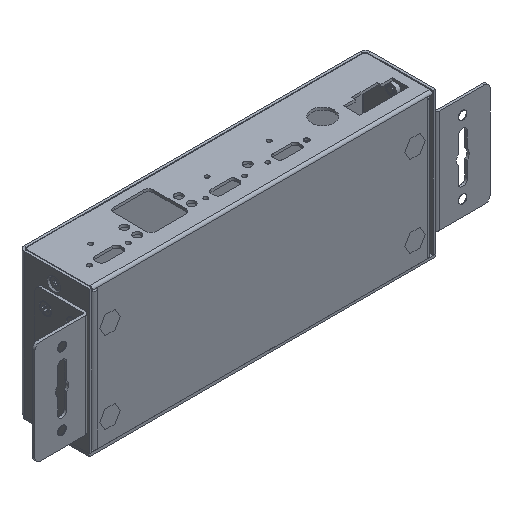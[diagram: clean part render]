
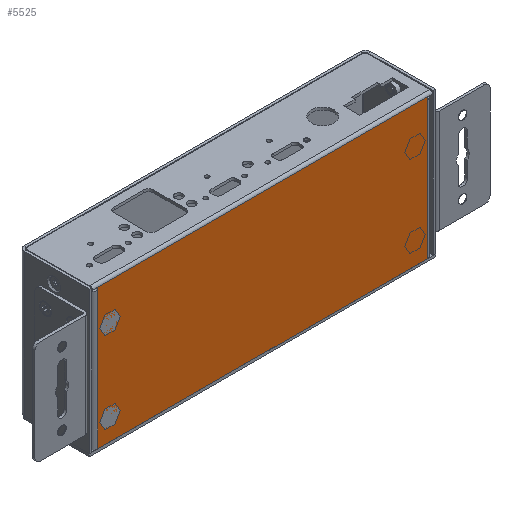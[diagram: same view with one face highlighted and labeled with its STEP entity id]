
A CAD part, isometric view. The second image highlights one B-rep face of the part: STEP entity #5525.
In plain terms, the highlighted planar face has unit normal (0, -1, 0).
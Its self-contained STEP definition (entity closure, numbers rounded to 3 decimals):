
#501=CIRCLE('',#5976,0.5);
#502=CIRCLE('',#5977,0.5);
#971=FACE_OUTER_BOUND('',#1304,.T.);
#1304=EDGE_LOOP('',(#4100,#4101,#4102,#4103,#4104,#4105));
#1709=LINE('',#8921,#2155);
#1710=LINE('',#8925,#2156);
#1711=LINE('',#8929,#2157);
#1712=LINE('',#8930,#2158);
#2155=VECTOR('',#6795,53.7);
#2156=VECTOR('',#6798,128.5);
#2157=VECTOR('',#6801,53.7);
#2158=VECTOR('',#6802,127.5);
#2610=VERTEX_POINT('',#8919);
#2611=VERTEX_POINT('',#8920);
#2612=VERTEX_POINT('',#8922);
#2613=VERTEX_POINT('',#8924);
#2614=VERTEX_POINT('',#8926);
#2615=VERTEX_POINT('',#8928);
#3171=EDGE_CURVE('',#2610,#2611,#1709,.T.);
#3172=EDGE_CURVE('',#2612,#2611,#501,.T.);
#3173=EDGE_CURVE('',#2613,#2612,#1710,.T.);
#3174=EDGE_CURVE('',#2613,#2614,#502,.T.);
#3175=EDGE_CURVE('',#2614,#2615,#1711,.T.);
#3176=EDGE_CURVE('',#2610,#2615,#1712,.T.);
#4100=ORIENTED_EDGE('',*,*,#3171,.T.);
#4101=ORIENTED_EDGE('',*,*,#3172,.F.);
#4102=ORIENTED_EDGE('',*,*,#3173,.F.);
#4103=ORIENTED_EDGE('',*,*,#3174,.T.);
#4104=ORIENTED_EDGE('',*,*,#3175,.T.);
#4105=ORIENTED_EDGE('',*,*,#3176,.F.);
#5344=PLANE('',#5975);
#5525=ADVANCED_FACE('',(#971),#5344,.F.);
#5975=AXIS2_PLACEMENT_3D('',#8918,#6793,#6794);
#5976=AXIS2_PLACEMENT_3D('',#8923,#6796,#6797);
#5977=AXIS2_PLACEMENT_3D('',#8927,#6799,#6800);
#6793=DIRECTION('center_axis',(0.,1.,0.));
#6794=DIRECTION('ref_axis',(1.,0.,0.));
#6795=DIRECTION('',(0.,0.,1.));
#6796=DIRECTION('center_axis',(0.,-1.,0.));
#6797=DIRECTION('ref_axis',(0.,0.,1.));
#6798=DIRECTION('',(1.,0.,0.));
#6799=DIRECTION('center_axis',(0.,1.,0.));
#6800=DIRECTION('ref_axis',(0.,0.,1.));
#6801=DIRECTION('',(0.,0.,-1.));
#6802=DIRECTION('',(-1.,0.,0.));
#8918=CARTESIAN_POINT('Origin',(0.,0.,0.));
#8919=CARTESIAN_POINT('',(63.75,0.,-27.1));
#8920=CARTESIAN_POINT('',(63.75,0.,26.6));
#8921=CARTESIAN_POINT('',(63.75,0.,-27.1));
#8922=CARTESIAN_POINT('',(64.25,0.,27.1));
#8923=CARTESIAN_POINT('Origin',(64.25,0.,26.6));
#8924=CARTESIAN_POINT('',(-64.25,0.,27.1));
#8925=CARTESIAN_POINT('',(-64.25,0.,27.1));
#8926=CARTESIAN_POINT('',(-63.75,0.,26.6));
#8927=CARTESIAN_POINT('Origin',(-64.25,0.,26.6));
#8928=CARTESIAN_POINT('',(-63.75,0.,-27.1));
#8929=CARTESIAN_POINT('',(-63.75,0.,26.6));
#8930=CARTESIAN_POINT('',(63.75,0.,-27.1));
